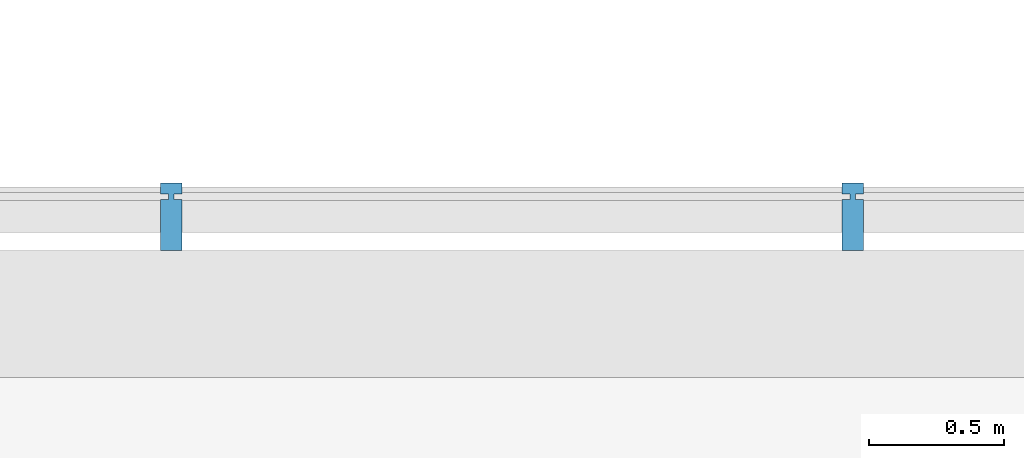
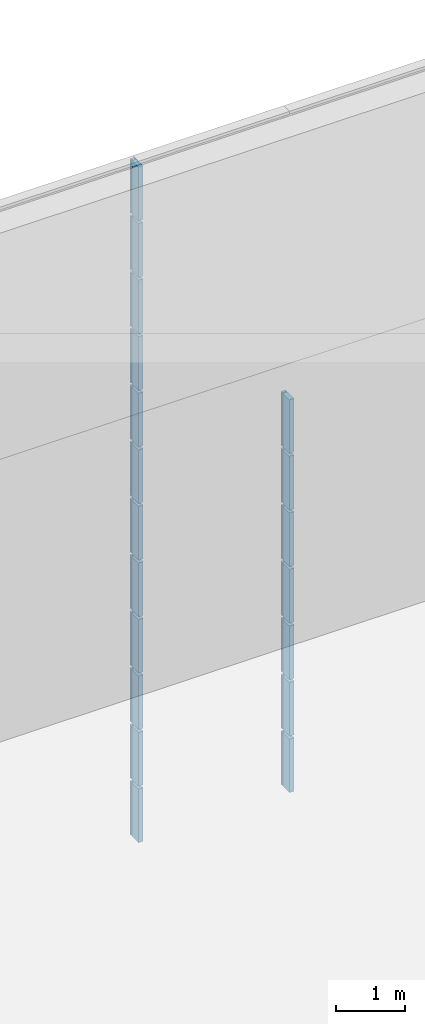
# One storey, part 97 of 105: 19 building element parts, 4 elements without a shape of their own.
"""IFC4 building model written with IfcOpenShell, lengths in millimetres."""

from ifc_helpers import new_model, entity, si_unit, converted_unit, derived_unit, direction, frame, origin_with_axes, place, context, subcontext, project, spatial, triangles, material, element, aggregate, save


model = new_model("IFC4")

# Units and contexts
model_context = context("Model", 3, precision=1e-05, world=origin_with_axes(), true_north=direction((0.0, 1.0)))
body_context = subcontext(model_context, "Body", "Model", "MODEL_VIEW")
ifc_project = project(units=[si_unit("LENGTHUNIT", "METRE", prefix="MILLI"), si_unit("AREAUNIT", "SQUARE_METRE"), si_unit("VOLUMEUNIT", "CUBIC_METRE"), converted_unit("PLANEANGLEUNIT", "DEGREE", entity("IfcLengthMeasure", 0.017453), si_unit("PLANEANGLEUNIT", "RADIAN"), dimensions=[0, 0, 0, 0, 0, 0, 0]), si_unit("SOLIDANGLEUNIT", "STERADIAN"), si_unit("MASSUNIT", "GRAM"), si_unit("TIMEUNIT", "SECOND"), si_unit("THERMODYNAMICTEMPERATUREUNIT", "DEGREE_CELSIUS"), si_unit("LUMINOUSINTENSITYUNIT", "LUMEN"), si_unit("POWERUNIT", "WATT"), derived_unit("THERMALTRANSMITTANCEUNIT", [(si_unit("POWERUNIT", "WATT"), 1), (si_unit("THERMODYNAMICTEMPERATUREUNIT", "KELVIN"), -1), (si_unit("AREAUNIT", "SQUARE_METRE"), -1)])], contexts=[model_context])

# Site, building, storey
site_placement = place(None, origin_with_axes())
site = spatial("IfcSite", under=ifc_project, at=site_placement, Name="Default Site", CompositionType="ELEMENT")
building_placement = place(site_placement, origin_with_axes())
building = spatial("IfcBuilding", under=site, at=building_placement, Name="Default Building", CompositionType="ELEMENT")
storey_placement = place(building_placement, origin_with_axes())
storey = spatial("IfcBuildingStorey", under=building, at=storey_placement, Name="OG - Story", CompositionType="ELEMENT", Elevation=0.0)

# Curtain wall, building element parts
curtain_wall_1_placement = place(storey_placement, origin_with_axes())
curtain_wall_1 = element("IfcCurtainWall", 1, at=curtain_wall_1_placement, inside=storey, Name="Fassade-004", PredefinedType="NOTDEFINED")
ifc_material = material(Name="Blech")
building_element_part_1_placement = place(curtain_wall_1_placement, frame((33014.549222, -4389.262838, 0.0), z_axis=(0.0, 0.0, 1.0), x_axis=(1.0, 0.0, 0.0)))
building_element_part_1 = element("IfcBuildingElementPart", 2, at=building_element_part_1_placement, material=ifc_material, Name="Blech", PredefinedType="NOTDEFINED", context=body_context, shape_type="Tessellation", body=[
    triangles([(31618.947, -9.999, 975.0), (31618.947, -199.999, 975.0), (31588.947, -9.999, 975.0), (31568.947, -9.999, 975.0), (31588.947, 10.0, 975.0), (31618.947, 50.0, 975.0), (31618.947, 10.0, 975.0), (31538.947, -199.999, 975.0), (31538.947, -9.999, 975.0), (31568.947, 10.0, 975.0), (31538.947, 10.0, 975.0), (31538.947, 50.0, 975.0), (31588.947, -9.999, 25.0), (31588.947, 10.0, 25.0), (31618.947, 10.0, 25.0), (31618.947, 50.0, 25.0), (31538.947, 50.0, 25.0), (31538.947, 10.0, 25.0), (31568.947, 10.0, 25.0), (31568.947, -9.999, 25.0), (31538.947, -9.999, 25.0), (31538.947, -199.999, 25.0), (31618.947, -199.999, 25.0), (31618.947, -9.999, 25.0)], [[1, 2, 3], [3, 2, 4], [3, 4, 5], [5, 4, 6], [5, 6, 7], [8, 9, 4], [8, 4, 2], [6, 4, 10], [6, 10, 11], [6, 11, 12], [3, 13, 14], [3, 14, 5], [5, 14, 15], [5, 15, 7], [15, 16, 6], [15, 6, 7], [12, 6, 16], [12, 16, 17], [18, 11, 12], [18, 12, 17], [11, 18, 19], [11, 19, 10], [4, 10, 19], [4, 19, 20], [9, 4, 20], [9, 20, 21], [9, 21, 22], [9, 22, 8], [2, 8, 22], [2, 22, 23], [1, 2, 23], [1, 23, 24], [1, 24, 13], [1, 13, 3], [15, 16, 14], [14, 16, 19], [14, 19, 13], [13, 19, 23], [13, 23, 24], [17, 18, 19], [17, 19, 16], [23, 19, 20], [23, 20, 21], [23, 21, 22]], closed=False),
])
building_element_part_2_placement = place(curtain_wall_1_placement, frame((33014.549222, -4389.262838, 0.0), z_axis=(0.0, 0.0, 1.0), x_axis=(1.0, 0.0, 0.0)))
building_element_part_2 = element("IfcBuildingElementPart", 3, at=building_element_part_2_placement, material=ifc_material, Name="Blech", PredefinedType="NOTDEFINED", context=body_context, shape_type="Tessellation", body=[
    triangles([(34145.263, -9.999, 975.0), (34145.263, -199.999, 975.0), (34115.263, -9.999, 975.0), (34095.263, -9.999, 975.0), (34115.263, 10.0, 975.0), (34145.263, 50.0, 975.0), (34145.263, 10.0, 975.0), (34065.263, -199.999, 975.0), (34065.263, -9.999, 975.0), (34095.263, 10.0, 975.0), (34065.263, 10.0, 975.0), (34065.263, 50.0, 975.0), (34115.263, -9.999, 25.0), (34115.263, 10.0, 25.0), (34145.263, 10.0, 25.0), (34145.263, 50.0, 25.0), (34065.263, 50.0, 25.0), (34065.263, 10.0, 25.0), (34095.263, 10.0, 25.0), (34095.263, -9.999, 25.0), (34065.263, -9.999, 25.0), (34065.263, -199.999, 25.0), (34145.263, -199.999, 25.0), (34145.263, -9.999, 25.0)], [[1, 2, 3], [3, 2, 4], [3, 4, 5], [5, 4, 6], [5, 6, 7], [8, 9, 4], [8, 4, 2], [6, 4, 10], [6, 10, 11], [6, 11, 12], [3, 13, 14], [3, 14, 5], [5, 14, 15], [5, 15, 7], [15, 16, 6], [15, 6, 7], [12, 6, 16], [12, 16, 17], [18, 11, 12], [18, 12, 17], [11, 18, 19], [11, 19, 10], [4, 10, 19], [4, 19, 20], [9, 4, 20], [9, 20, 21], [9, 21, 22], [9, 22, 8], [2, 8, 22], [2, 22, 23], [1, 2, 23], [1, 23, 24], [1, 24, 13], [1, 13, 3], [15, 16, 14], [14, 16, 19], [14, 19, 13], [13, 19, 23], [13, 23, 24], [17, 18, 19], [17, 19, 16], [23, 19, 20], [23, 20, 21], [23, 21, 22]], closed=False),
])
building_element_part_3_placement = place(curtain_wall_1_placement, frame((33014.549222, -4389.262838, 0.0), z_axis=(0.0, 0.0, 1.0), x_axis=(1.0, 0.0, 0.0)))
building_element_part_3 = element("IfcBuildingElementPart", 4, at=building_element_part_3_placement, material=ifc_material, Name="Blech", PredefinedType="NOTDEFINED", context=body_context, shape_type="Tessellation", body=[
    triangles([(31618.947, -9.999, 1975.0), (31618.947, -199.999, 1975.0), (31588.947, -9.999, 1975.0), (31568.947, -9.999, 1975.0), (31588.947, 10.0, 1975.0), (31618.947, 50.0, 1975.0), (31618.947, 10.0, 1975.0), (31538.947, -199.999, 1975.0), (31538.947, -9.999, 1975.0), (31568.947, 10.0, 1975.0), (31538.947, 10.0, 1975.0), (31538.947, 50.0, 1975.0), (31588.947, -9.999, 1025.0), (31588.947, 10.0, 1025.0), (31618.947, 10.0, 1025.0), (31618.947, 50.0, 1025.0), (31538.947, 50.0, 1025.0), (31538.947, 10.0, 1025.0), (31568.947, 10.0, 1025.0), (31568.947, -9.999, 1025.0), (31538.947, -9.999, 1025.0), (31538.947, -199.999, 1025.0), (31618.947, -199.999, 1025.0), (31618.947, -9.999, 1025.0)], [[1, 2, 3], [3, 2, 4], [3, 4, 5], [5, 4, 6], [5, 6, 7], [8, 9, 4], [8, 4, 2], [6, 4, 10], [6, 10, 11], [6, 11, 12], [3, 13, 14], [3, 14, 5], [5, 14, 15], [5, 15, 7], [15, 16, 6], [15, 6, 7], [12, 6, 16], [12, 16, 17], [18, 11, 12], [18, 12, 17], [11, 18, 19], [11, 19, 10], [4, 10, 19], [4, 19, 20], [9, 4, 20], [9, 20, 21], [9, 21, 22], [9, 22, 8], [2, 8, 22], [2, 22, 23], [1, 2, 23], [1, 23, 24], [1, 24, 13], [1, 13, 3], [15, 16, 14], [14, 16, 19], [14, 19, 13], [13, 19, 23], [13, 23, 24], [17, 18, 19], [17, 19, 16], [23, 19, 20], [23, 20, 21], [23, 21, 22]], closed=False),
])
building_element_part_4_placement = place(curtain_wall_1_placement, frame((33014.549222, -4389.262838, 0.0), z_axis=(0.0, 0.0, 1.0), x_axis=(1.0, 0.0, 0.0)))
building_element_part_4 = element("IfcBuildingElementPart", 5, at=building_element_part_4_placement, material=ifc_material, Name="Blech", PredefinedType="NOTDEFINED", context=body_context, shape_type="Tessellation", body=[
    triangles([(34145.263, -9.999, 1975.0), (34145.263, -199.999, 1975.0), (34115.263, -9.999, 1975.0), (34095.263, -9.999, 1975.0), (34115.263, 10.0, 1975.0), (34145.263, 50.0, 1975.0), (34145.263, 10.0, 1975.0), (34065.263, -199.999, 1975.0), (34065.263, -9.999, 1975.0), (34095.263, 10.0, 1975.0), (34065.263, 10.0, 1975.0), (34065.263, 50.0, 1975.0), (34115.263, -9.999, 1025.0), (34115.263, 10.0, 1025.0), (34145.263, 10.0, 1025.0), (34145.263, 50.0, 1025.0), (34065.263, 50.0, 1025.0), (34065.263, 10.0, 1025.0), (34095.263, 10.0, 1025.0), (34095.263, -9.999, 1025.0), (34065.263, -9.999, 1025.0), (34065.263, -199.999, 1025.0), (34145.263, -199.999, 1025.0), (34145.263, -9.999, 1025.0)], [[1, 2, 3], [3, 2, 4], [3, 4, 5], [5, 4, 6], [5, 6, 7], [8, 9, 4], [8, 4, 2], [6, 4, 10], [6, 10, 11], [6, 11, 12], [3, 13, 14], [3, 14, 5], [5, 14, 15], [5, 15, 7], [15, 16, 6], [15, 6, 7], [12, 6, 16], [12, 16, 17], [18, 11, 12], [18, 12, 17], [11, 18, 19], [11, 19, 10], [4, 10, 19], [4, 19, 20], [9, 4, 20], [9, 20, 21], [9, 21, 22], [9, 22, 8], [2, 8, 22], [2, 22, 23], [1, 2, 23], [1, 23, 24], [1, 24, 13], [1, 13, 3], [15, 16, 14], [14, 16, 19], [14, 19, 13], [13, 19, 23], [13, 23, 24], [17, 18, 19], [17, 19, 16], [23, 19, 20], [23, 20, 21], [23, 21, 22]], closed=False),
])
building_element_part_5_placement = place(curtain_wall_1_placement, frame((33014.549222, -4389.262838, 0.0), z_axis=(0.0, 0.0, 1.0), x_axis=(1.0, 0.0, 0.0)))
building_element_part_5 = element("IfcBuildingElementPart", 6, at=building_element_part_5_placement, material=ifc_material, Name="Blech", PredefinedType="NOTDEFINED", context=body_context, shape_type="Tessellation", body=[
    triangles([(31618.947, -9.999, 2975.0), (31618.947, -199.999, 2975.0), (31588.947, -9.999, 2975.0), (31568.947, -9.999, 2975.0), (31588.947, 10.0, 2975.0), (31618.947, 50.0, 2975.0), (31618.947, 10.0, 2975.0), (31538.947, -199.999, 2975.0), (31538.947, -9.999, 2975.0), (31568.947, 10.0, 2975.0), (31538.947, 10.0, 2975.0), (31538.947, 50.0, 2975.0), (31588.947, -9.999, 2025.0), (31588.947, 10.0, 2025.0), (31618.947, 10.0, 2025.0), (31618.947, 50.0, 2025.0), (31538.947, 50.0, 2025.0), (31538.947, 10.0, 2025.0), (31568.947, 10.0, 2025.0), (31568.947, -9.999, 2025.0), (31538.947, -9.999, 2025.0), (31538.947, -199.999, 2025.0), (31618.947, -199.999, 2025.0), (31618.947, -9.999, 2025.0)], [[1, 2, 3], [3, 2, 4], [3, 4, 5], [5, 4, 6], [5, 6, 7], [8, 9, 4], [8, 4, 2], [6, 4, 10], [6, 10, 11], [6, 11, 12], [3, 13, 14], [3, 14, 5], [5, 14, 15], [5, 15, 7], [15, 16, 6], [15, 6, 7], [12, 6, 16], [12, 16, 17], [18, 11, 12], [18, 12, 17], [11, 18, 19], [11, 19, 10], [4, 10, 19], [4, 19, 20], [9, 4, 20], [9, 20, 21], [9, 21, 22], [9, 22, 8], [2, 8, 22], [2, 22, 23], [1, 2, 23], [1, 23, 24], [1, 24, 13], [1, 13, 3], [15, 16, 14], [14, 16, 19], [14, 19, 13], [13, 19, 23], [13, 23, 24], [17, 18, 19], [17, 19, 16], [23, 19, 20], [23, 20, 21], [23, 21, 22]], closed=False),
])
building_element_part_6_placement = place(curtain_wall_1_placement, frame((33014.549222, -4389.262838, 0.0), z_axis=(0.0, 0.0, 1.0), x_axis=(1.0, 0.0, 0.0)))
building_element_part_6 = element("IfcBuildingElementPart", 7, at=building_element_part_6_placement, material=ifc_material, Name="Blech", PredefinedType="NOTDEFINED", context=body_context, shape_type="Tessellation", body=[
    triangles([(34145.263, -9.999, 2975.0), (34145.263, -199.999, 2975.0), (34115.263, -9.999, 2975.0), (34095.263, -9.999, 2975.0), (34115.263, 10.0, 2975.0), (34145.263, 50.0, 2975.0), (34145.263, 10.0, 2975.0), (34065.263, -199.999, 2975.0), (34065.263, -9.999, 2975.0), (34095.263, 10.0, 2975.0), (34065.263, 10.0, 2975.0), (34065.263, 50.0, 2975.0), (34115.263, -9.999, 2025.0), (34115.263, 10.0, 2025.0), (34145.263, 10.0, 2025.0), (34145.263, 50.0, 2025.0), (34065.263, 50.0, 2025.0), (34065.263, 10.0, 2025.0), (34095.263, 10.0, 2025.0), (34095.263, -9.999, 2025.0), (34065.263, -9.999, 2025.0), (34065.263, -199.999, 2025.0), (34145.263, -199.999, 2025.0), (34145.263, -9.999, 2025.0)], [[1, 2, 3], [3, 2, 4], [3, 4, 5], [5, 4, 6], [5, 6, 7], [8, 9, 4], [8, 4, 2], [6, 4, 10], [6, 10, 11], [6, 11, 12], [3, 13, 14], [3, 14, 5], [5, 14, 15], [5, 15, 7], [15, 16, 6], [15, 6, 7], [12, 6, 16], [12, 16, 17], [18, 11, 12], [18, 12, 17], [11, 18, 19], [11, 19, 10], [4, 10, 19], [4, 19, 20], [9, 4, 20], [9, 20, 21], [9, 21, 22], [9, 22, 8], [2, 8, 22], [2, 22, 23], [1, 2, 23], [1, 23, 24], [1, 24, 13], [1, 13, 3], [15, 16, 14], [14, 16, 19], [14, 19, 13], [13, 19, 23], [13, 23, 24], [17, 18, 19], [17, 19, 16], [23, 19, 20], [23, 20, 21], [23, 21, 22]], closed=False),
])
aggregate(curtain_wall_1, [building_element_part_1, building_element_part_2, building_element_part_3, building_element_part_4, building_element_part_5, building_element_part_6])

curtain_wall_2_placement = place(storey_placement, origin_with_axes())
curtain_wall_2 = element("IfcCurtainWall", 8, at=curtain_wall_2_placement, inside=storey, Name="Fassade-004", PredefinedType="NOTDEFINED")
building_element_part_7_placement = place(curtain_wall_2_placement, frame((33014.549222, -4389.262838, 3000.0), z_axis=(0.0, 0.0, 1.0), x_axis=(1.0, 0.0, 0.0)))
building_element_part_7 = element("IfcBuildingElementPart", 9, at=building_element_part_7_placement, material=ifc_material, Name="Blech", PredefinedType="NOTDEFINED", context=body_context, shape_type="Tessellation", body=[
    triangles([(31618.947, -9.999, 975.0), (31618.947, -199.999, 975.0), (31588.947, -9.999, 975.0), (31568.947, -9.999, 975.0), (31588.947, 10.0, 975.0), (31618.947, 50.0, 975.0), (31618.947, 10.0, 975.0), (31538.947, -199.999, 975.0), (31538.947, -9.999, 975.0), (31568.947, 10.0, 975.0), (31538.947, 10.0, 975.0), (31538.947, 50.0, 975.0), (31588.947, -9.999, 25.0), (31588.947, 10.0, 25.0), (31618.947, 10.0, 25.0), (31618.947, 50.0, 25.0), (31538.947, 50.0, 25.0), (31538.947, 10.0, 25.0), (31568.947, 10.0, 25.0), (31568.947, -9.999, 25.0), (31538.947, -9.999, 25.0), (31538.947, -199.999, 25.0), (31618.947, -199.999, 25.0), (31618.947, -9.999, 25.0)], [[1, 2, 3], [3, 2, 4], [3, 4, 5], [5, 4, 6], [5, 6, 7], [8, 9, 4], [8, 4, 2], [6, 4, 10], [6, 10, 11], [6, 11, 12], [3, 13, 14], [3, 14, 5], [5, 14, 15], [5, 15, 7], [15, 16, 6], [15, 6, 7], [12, 6, 16], [12, 16, 17], [18, 11, 12], [18, 12, 17], [11, 18, 19], [11, 19, 10], [4, 10, 19], [4, 19, 20], [9, 4, 20], [9, 20, 21], [9, 21, 22], [9, 22, 8], [2, 8, 22], [2, 22, 23], [1, 2, 23], [1, 23, 24], [1, 24, 13], [1, 13, 3], [15, 16, 14], [14, 16, 19], [14, 19, 13], [13, 19, 23], [13, 23, 24], [17, 18, 19], [17, 19, 16], [23, 19, 20], [23, 20, 21], [23, 21, 22]], closed=False),
])
building_element_part_8_placement = place(curtain_wall_2_placement, frame((33014.549222, -4389.262838, 3000.0), z_axis=(0.0, 0.0, 1.0), x_axis=(1.0, 0.0, 0.0)))
building_element_part_8 = element("IfcBuildingElementPart", 10, at=building_element_part_8_placement, material=ifc_material, Name="Blech", PredefinedType="NOTDEFINED", context=body_context, shape_type="Tessellation", body=[
    triangles([(34145.263, -9.999, 975.0), (34145.263, -199.999, 975.0), (34115.263, -9.999, 975.0), (34095.263, -9.999, 975.0), (34115.263, 10.0, 975.0), (34145.263, 50.0, 975.0), (34145.263, 10.0, 975.0), (34065.263, -199.999, 975.0), (34065.263, -9.999, 975.0), (34095.263, 10.0, 975.0), (34065.263, 10.0, 975.0), (34065.263, 50.0, 975.0), (34115.263, -9.999, 25.0), (34115.263, 10.0, 25.0), (34145.263, 10.0, 25.0), (34145.263, 50.0, 25.0), (34065.263, 50.0, 25.0), (34065.263, 10.0, 25.0), (34095.263, 10.0, 25.0), (34095.263, -9.999, 25.0), (34065.263, -9.999, 25.0), (34065.263, -199.999, 25.0), (34145.263, -199.999, 25.0), (34145.263, -9.999, 25.0)], [[1, 2, 3], [3, 2, 4], [3, 4, 5], [5, 4, 6], [5, 6, 7], [8, 9, 4], [8, 4, 2], [6, 4, 10], [6, 10, 11], [6, 11, 12], [3, 13, 14], [3, 14, 5], [5, 14, 15], [5, 15, 7], [15, 16, 6], [15, 6, 7], [12, 6, 16], [12, 16, 17], [18, 11, 12], [18, 12, 17], [11, 18, 19], [11, 19, 10], [4, 10, 19], [4, 19, 20], [9, 4, 20], [9, 20, 21], [9, 21, 22], [9, 22, 8], [2, 8, 22], [2, 22, 23], [1, 2, 23], [1, 23, 24], [1, 24, 13], [1, 13, 3], [15, 16, 14], [14, 16, 19], [14, 19, 13], [13, 19, 23], [13, 23, 24], [17, 18, 19], [17, 19, 16], [23, 19, 20], [23, 20, 21], [23, 21, 22]], closed=False),
])
building_element_part_9_placement = place(curtain_wall_2_placement, frame((33014.549222, -4389.262838, 3000.0), z_axis=(0.0, 0.0, 1.0), x_axis=(1.0, 0.0, 0.0)))
building_element_part_9 = element("IfcBuildingElementPart", 11, at=building_element_part_9_placement, material=ifc_material, Name="Blech", PredefinedType="NOTDEFINED", context=body_context, shape_type="Tessellation", body=[
    triangles([(31618.947, -9.999, 1975.0), (31618.947, -199.999, 1975.0), (31588.947, -9.999, 1975.0), (31568.947, -9.999, 1975.0), (31588.947, 10.0, 1975.0), (31618.947, 50.0, 1975.0), (31618.947, 10.0, 1975.0), (31538.947, -199.999, 1975.0), (31538.947, -9.999, 1975.0), (31568.947, 10.0, 1975.0), (31538.947, 10.0, 1975.0), (31538.947, 50.0, 1975.0), (31588.947, -9.999, 1025.0), (31588.947, 10.0, 1025.0), (31618.947, 10.0, 1025.0), (31618.947, 50.0, 1025.0), (31538.947, 50.0, 1025.0), (31538.947, 10.0, 1025.0), (31568.947, 10.0, 1025.0), (31568.947, -9.999, 1025.0), (31538.947, -9.999, 1025.0), (31538.947, -199.999, 1025.0), (31618.947, -199.999, 1025.0), (31618.947, -9.999, 1025.0)], [[1, 2, 3], [3, 2, 4], [3, 4, 5], [5, 4, 6], [5, 6, 7], [8, 9, 4], [8, 4, 2], [6, 4, 10], [6, 10, 11], [6, 11, 12], [3, 13, 14], [3, 14, 5], [5, 14, 15], [5, 15, 7], [15, 16, 6], [15, 6, 7], [12, 6, 16], [12, 16, 17], [18, 11, 12], [18, 12, 17], [11, 18, 19], [11, 19, 10], [4, 10, 19], [4, 19, 20], [9, 4, 20], [9, 20, 21], [9, 21, 22], [9, 22, 8], [2, 8, 22], [2, 22, 23], [1, 2, 23], [1, 23, 24], [1, 24, 13], [1, 13, 3], [15, 16, 14], [14, 16, 19], [14, 19, 13], [13, 19, 23], [13, 23, 24], [17, 18, 19], [17, 19, 16], [23, 19, 20], [23, 20, 21], [23, 21, 22]], closed=False),
])
building_element_part_10_placement = place(curtain_wall_2_placement, frame((33014.549222, -4389.262838, 3000.0), z_axis=(0.0, 0.0, 1.0), x_axis=(1.0, 0.0, 0.0)))
building_element_part_10 = element("IfcBuildingElementPart", 12, at=building_element_part_10_placement, material=ifc_material, Name="Blech", PredefinedType="NOTDEFINED", context=body_context, shape_type="Tessellation", body=[
    triangles([(34145.263, -9.999, 1975.0), (34145.263, -199.999, 1975.0), (34115.263, -9.999, 1975.0), (34095.263, -9.999, 1975.0), (34115.263, 10.0, 1975.0), (34145.263, 50.0, 1975.0), (34145.263, 10.0, 1975.0), (34065.263, -199.999, 1975.0), (34065.263, -9.999, 1975.0), (34095.263, 10.0, 1975.0), (34065.263, 10.0, 1975.0), (34065.263, 50.0, 1975.0), (34115.263, -9.999, 1025.0), (34115.263, 10.0, 1025.0), (34145.263, 10.0, 1025.0), (34145.263, 50.0, 1025.0), (34065.263, 50.0, 1025.0), (34065.263, 10.0, 1025.0), (34095.263, 10.0, 1025.0), (34095.263, -9.999, 1025.0), (34065.263, -9.999, 1025.0), (34065.263, -199.999, 1025.0), (34145.263, -199.999, 1025.0), (34145.263, -9.999, 1025.0)], [[1, 2, 3], [3, 2, 4], [3, 4, 5], [5, 4, 6], [5, 6, 7], [8, 9, 4], [8, 4, 2], [6, 4, 10], [6, 10, 11], [6, 11, 12], [3, 13, 14], [3, 14, 5], [5, 14, 15], [5, 15, 7], [15, 16, 6], [15, 6, 7], [12, 6, 16], [12, 16, 17], [18, 11, 12], [18, 12, 17], [11, 18, 19], [11, 19, 10], [4, 10, 19], [4, 19, 20], [9, 4, 20], [9, 20, 21], [9, 21, 22], [9, 22, 8], [2, 8, 22], [2, 22, 23], [1, 2, 23], [1, 23, 24], [1, 24, 13], [1, 13, 3], [15, 16, 14], [14, 16, 19], [14, 19, 13], [13, 19, 23], [13, 23, 24], [17, 18, 19], [17, 19, 16], [23, 19, 20], [23, 20, 21], [23, 21, 22]], closed=False),
])
building_element_part_11_placement = place(curtain_wall_2_placement, frame((33014.549222, -4389.262838, 3000.0), z_axis=(0.0, 0.0, 1.0), x_axis=(1.0, 0.0, 0.0)))
building_element_part_11 = element("IfcBuildingElementPart", 13, at=building_element_part_11_placement, material=ifc_material, Name="Blech", PredefinedType="NOTDEFINED", context=body_context, shape_type="Tessellation", body=[
    triangles([(31618.947, -9.999, 2975.0), (31618.947, -199.999, 2975.0), (31588.947, -9.999, 2975.0), (31568.947, -9.999, 2975.0), (31588.947, 10.0, 2975.0), (31618.947, 50.0, 2975.0), (31618.947, 10.0, 2975.0), (31538.947, -199.999, 2975.0), (31538.947, -9.999, 2975.0), (31568.947, 10.0, 2975.0), (31538.947, 10.0, 2975.0), (31538.947, 50.0, 2975.0), (31588.947, -9.999, 2025.0), (31588.947, 10.0, 2025.0), (31618.947, 10.0, 2025.0), (31618.947, 50.0, 2025.0), (31538.947, 50.0, 2025.0), (31538.947, 10.0, 2025.0), (31568.947, 10.0, 2025.0), (31568.947, -9.999, 2025.0), (31538.947, -9.999, 2025.0), (31538.947, -199.999, 2025.0), (31618.947, -199.999, 2025.0), (31618.947, -9.999, 2025.0)], [[1, 2, 3], [3, 2, 4], [3, 4, 5], [5, 4, 6], [5, 6, 7], [8, 9, 4], [8, 4, 2], [6, 4, 10], [6, 10, 11], [6, 11, 12], [3, 13, 14], [3, 14, 5], [5, 14, 15], [5, 15, 7], [15, 16, 6], [15, 6, 7], [12, 6, 16], [12, 16, 17], [18, 11, 12], [18, 12, 17], [11, 18, 19], [11, 19, 10], [4, 10, 19], [4, 19, 20], [9, 4, 20], [9, 20, 21], [9, 21, 22], [9, 22, 8], [2, 8, 22], [2, 22, 23], [1, 2, 23], [1, 23, 24], [1, 24, 13], [1, 13, 3], [15, 16, 14], [14, 16, 19], [14, 19, 13], [13, 19, 23], [13, 23, 24], [17, 18, 19], [17, 19, 16], [23, 19, 20], [23, 20, 21], [23, 21, 22]], closed=False),
])
building_element_part_12_placement = place(curtain_wall_2_placement, frame((33014.549222, -4389.262838, 3000.0), z_axis=(0.0, 0.0, 1.0), x_axis=(1.0, 0.0, 0.0)))
building_element_part_12 = element("IfcBuildingElementPart", 14, at=building_element_part_12_placement, material=ifc_material, Name="Blech", PredefinedType="NOTDEFINED", context=body_context, shape_type="Tessellation", body=[
    triangles([(34145.263, -9.999, 2975.0), (34145.263, -199.999, 2975.0), (34115.263, -9.999, 2975.0), (34095.263, -9.999, 2975.0), (34115.263, 10.0, 2975.0), (34145.263, 50.0, 2975.0), (34145.263, 10.0, 2975.0), (34065.263, -199.999, 2975.0), (34065.263, -9.999, 2975.0), (34095.263, 10.0, 2975.0), (34065.263, 10.0, 2975.0), (34065.263, 50.0, 2975.0), (34115.263, -9.999, 2025.0), (34115.263, 10.0, 2025.0), (34145.263, 10.0, 2025.0), (34145.263, 50.0, 2025.0), (34065.263, 50.0, 2025.0), (34065.263, 10.0, 2025.0), (34095.263, 10.0, 2025.0), (34095.263, -9.999, 2025.0), (34065.263, -9.999, 2025.0), (34065.263, -199.999, 2025.0), (34145.263, -199.999, 2025.0), (34145.263, -9.999, 2025.0)], [[1, 2, 3], [3, 2, 4], [3, 4, 5], [5, 4, 6], [5, 6, 7], [8, 9, 4], [8, 4, 2], [6, 4, 10], [6, 10, 11], [6, 11, 12], [3, 13, 14], [3, 14, 5], [5, 14, 15], [5, 15, 7], [15, 16, 6], [15, 6, 7], [12, 6, 16], [12, 16, 17], [18, 11, 12], [18, 12, 17], [11, 18, 19], [11, 19, 10], [4, 10, 19], [4, 19, 20], [9, 4, 20], [9, 20, 21], [9, 21, 22], [9, 22, 8], [2, 8, 22], [2, 22, 23], [1, 2, 23], [1, 23, 24], [1, 24, 13], [1, 13, 3], [15, 16, 14], [14, 16, 19], [14, 19, 13], [13, 19, 23], [13, 23, 24], [17, 18, 19], [17, 19, 16], [23, 19, 20], [23, 20, 21], [23, 21, 22]], closed=False),
])
aggregate(curtain_wall_2, [building_element_part_7, building_element_part_8, building_element_part_9, building_element_part_10, building_element_part_11, building_element_part_12])

curtain_wall_3_placement = place(storey_placement, origin_with_axes())
curtain_wall_3 = element("IfcCurtainWall", 15, at=curtain_wall_3_placement, inside=storey, Name="Fassade-004", PredefinedType="NOTDEFINED")
building_element_part_13_placement = place(curtain_wall_3_placement, frame((33014.549222, -4389.262838, 6000.0), z_axis=(0.0, 0.0, 1.0), x_axis=(1.0, 0.0, 0.0)))
building_element_part_13 = element("IfcBuildingElementPart", 16, at=building_element_part_13_placement, material=ifc_material, Name="Blech", PredefinedType="NOTDEFINED", context=body_context, shape_type="Tessellation", body=[
    triangles([(31618.947, -9.999, 975.0), (31618.947, -199.999, 975.0), (31588.947, -9.999, 975.0), (31568.947, -9.999, 975.0), (31588.947, 10.0, 975.0), (31618.947, 50.0, 975.0), (31618.947, 10.0, 975.0), (31538.947, -199.999, 975.0), (31538.947, -9.999, 975.0), (31568.947, 10.0, 975.0), (31538.947, 10.0, 975.0), (31538.947, 50.0, 975.0), (31588.947, -9.999, 25.0), (31588.947, 10.0, 25.0), (31618.947, 10.0, 25.0), (31618.947, 50.0, 25.0), (31538.947, 50.0, 25.0), (31538.947, 10.0, 25.0), (31568.947, 10.0, 25.0), (31568.947, -9.999, 25.0), (31538.947, -9.999, 25.0), (31538.947, -199.999, 25.0), (31618.947, -199.999, 25.0), (31618.947, -9.999, 25.0)], [[1, 2, 3], [3, 2, 4], [3, 4, 5], [5, 4, 6], [5, 6, 7], [8, 9, 4], [8, 4, 2], [6, 4, 10], [6, 10, 11], [6, 11, 12], [3, 13, 14], [3, 14, 5], [5, 14, 15], [5, 15, 7], [15, 16, 6], [15, 6, 7], [12, 6, 16], [12, 16, 17], [18, 11, 12], [18, 12, 17], [11, 18, 19], [11, 19, 10], [4, 10, 19], [4, 19, 20], [9, 4, 20], [9, 20, 21], [9, 21, 22], [9, 22, 8], [2, 8, 22], [2, 22, 23], [1, 2, 23], [1, 23, 24], [1, 24, 13], [1, 13, 3], [15, 16, 14], [14, 16, 19], [14, 19, 13], [13, 19, 23], [13, 23, 24], [17, 18, 19], [17, 19, 16], [23, 19, 20], [23, 20, 21], [23, 21, 22]], closed=False),
])
building_element_part_14_placement = place(curtain_wall_3_placement, frame((33014.549222, -4389.262838, 6000.0), z_axis=(0.0, 0.0, 1.0), x_axis=(1.0, 0.0, 0.0)))
building_element_part_14 = element("IfcBuildingElementPart", 17, at=building_element_part_14_placement, material=ifc_material, Name="Blech", PredefinedType="NOTDEFINED", context=body_context, shape_type="Tessellation", body=[
    triangles([(34145.263, -9.999, 975.0), (34145.263, -199.999, 975.0), (34115.263, -9.999, 975.0), (34095.263, -9.999, 975.0), (34115.263, 10.0, 975.0), (34145.263, 50.0, 975.0), (34145.263, 10.0, 975.0), (34065.263, -199.999, 975.0), (34065.263, -9.999, 975.0), (34095.263, 10.0, 975.0), (34065.263, 10.0, 975.0), (34065.263, 50.0, 975.0), (34115.263, -9.999, 25.0), (34115.263, 10.0, 25.0), (34145.263, 10.0, 25.0), (34145.263, 50.0, 25.0), (34065.263, 50.0, 25.0), (34065.263, 10.0, 25.0), (34095.263, 10.0, 25.0), (34095.263, -9.999, 25.0), (34065.263, -9.999, 25.0), (34065.263, -199.999, 25.0), (34145.263, -199.999, 25.0), (34145.263, -9.999, 25.0)], [[1, 2, 3], [3, 2, 4], [3, 4, 5], [5, 4, 6], [5, 6, 7], [8, 9, 4], [8, 4, 2], [6, 4, 10], [6, 10, 11], [6, 11, 12], [3, 13, 14], [3, 14, 5], [5, 14, 15], [5, 15, 7], [15, 16, 6], [15, 6, 7], [12, 6, 16], [12, 16, 17], [18, 11, 12], [18, 12, 17], [11, 18, 19], [11, 19, 10], [4, 10, 19], [4, 19, 20], [9, 4, 20], [9, 20, 21], [9, 21, 22], [9, 22, 8], [2, 8, 22], [2, 22, 23], [1, 2, 23], [1, 23, 24], [1, 24, 13], [1, 13, 3], [15, 16, 14], [14, 16, 19], [14, 19, 13], [13, 19, 23], [13, 23, 24], [17, 18, 19], [17, 19, 16], [23, 19, 20], [23, 20, 21], [23, 21, 22]], closed=False),
])
building_element_part_15_placement = place(curtain_wall_3_placement, frame((33014.549222, -4389.262838, 6000.0), z_axis=(0.0, 0.0, 1.0), x_axis=(1.0, 0.0, 0.0)))
building_element_part_15 = element("IfcBuildingElementPart", 18, at=building_element_part_15_placement, material=ifc_material, Name="Blech", PredefinedType="NOTDEFINED", context=body_context, shape_type="Tessellation", body=[
    triangles([(31618.947, -9.999, 1975.0), (31618.947, -199.999, 1975.0), (31588.947, -9.999, 1975.0), (31568.947, -9.999, 1975.0), (31588.947, 10.0, 1975.0), (31618.947, 50.0, 1975.0), (31618.947, 10.0, 1975.0), (31538.947, -199.999, 1975.0), (31538.947, -9.999, 1975.0), (31568.947, 10.0, 1975.0), (31538.947, 10.0, 1975.0), (31538.947, 50.0, 1975.0), (31588.947, -9.999, 1025.0), (31588.947, 10.0, 1025.0), (31618.947, 10.0, 1025.0), (31618.947, 50.0, 1025.0), (31538.947, 50.0, 1025.0), (31538.947, 10.0, 1025.0), (31568.947, 10.0, 1025.0), (31568.947, -9.999, 1025.0), (31538.947, -9.999, 1025.0), (31538.947, -199.999, 1025.0), (31618.947, -199.999, 1025.0), (31618.947, -9.999, 1025.0)], [[1, 2, 3], [3, 2, 4], [3, 4, 5], [5, 4, 6], [5, 6, 7], [8, 9, 4], [8, 4, 2], [6, 4, 10], [6, 10, 11], [6, 11, 12], [3, 13, 14], [3, 14, 5], [5, 14, 15], [5, 15, 7], [15, 16, 6], [15, 6, 7], [12, 6, 16], [12, 16, 17], [18, 11, 12], [18, 12, 17], [11, 18, 19], [11, 19, 10], [4, 10, 19], [4, 19, 20], [9, 4, 20], [9, 20, 21], [9, 21, 22], [9, 22, 8], [2, 8, 22], [2, 22, 23], [1, 2, 23], [1, 23, 24], [1, 24, 13], [1, 13, 3], [15, 16, 14], [14, 16, 19], [14, 19, 13], [13, 19, 23], [13, 23, 24], [17, 18, 19], [17, 19, 16], [23, 19, 20], [23, 20, 21], [23, 21, 22]], closed=False),
])
building_element_part_16_placement = place(curtain_wall_3_placement, frame((33014.549222, -4389.262838, 6000.0), z_axis=(0.0, 0.0, 1.0), x_axis=(1.0, 0.0, 0.0)))
building_element_part_16 = element("IfcBuildingElementPart", 19, at=building_element_part_16_placement, material=ifc_material, Name="Blech", PredefinedType="NOTDEFINED", context=body_context, shape_type="Tessellation", body=[
    triangles([(31618.947, -9.999, 2975.0), (31618.947, -199.999, 2975.0), (31588.947, -9.999, 2975.0), (31568.947, -9.999, 2975.0), (31588.947, 10.0, 2975.0), (31618.947, 50.0, 2975.0), (31618.947, 10.0, 2975.0), (31538.947, -199.999, 2975.0), (31538.947, -9.999, 2975.0), (31568.947, 10.0, 2975.0), (31538.947, 10.0, 2975.0), (31538.947, 50.0, 2975.0), (31588.947, -9.999, 2025.0), (31588.947, 10.0, 2025.0), (31618.947, 10.0, 2025.0), (31618.947, 50.0, 2025.0), (31538.947, 50.0, 2025.0), (31538.947, 10.0, 2025.0), (31568.947, 10.0, 2025.0), (31568.947, -9.999, 2025.0), (31538.947, -9.999, 2025.0), (31538.947, -199.999, 2025.0), (31618.947, -199.999, 2025.0), (31618.947, -9.999, 2025.0)], [[1, 2, 3], [3, 2, 4], [3, 4, 5], [5, 4, 6], [5, 6, 7], [8, 9, 4], [8, 4, 2], [6, 4, 10], [6, 10, 11], [6, 11, 12], [3, 13, 14], [3, 14, 5], [5, 14, 15], [5, 15, 7], [15, 16, 6], [15, 6, 7], [12, 6, 16], [12, 16, 17], [18, 11, 12], [18, 12, 17], [11, 18, 19], [11, 19, 10], [4, 10, 19], [4, 19, 20], [9, 4, 20], [9, 20, 21], [9, 21, 22], [9, 22, 8], [2, 8, 22], [2, 22, 23], [1, 2, 23], [1, 23, 24], [1, 24, 13], [1, 13, 3], [15, 16, 14], [14, 16, 19], [14, 19, 13], [13, 19, 23], [13, 23, 24], [17, 18, 19], [17, 19, 16], [23, 19, 20], [23, 20, 21], [23, 21, 22]], closed=False),
])
aggregate(curtain_wall_3, [building_element_part_13, building_element_part_14, building_element_part_15, building_element_part_16])

curtain_wall_4_placement = place(storey_placement, origin_with_axes())
curtain_wall_4 = element("IfcCurtainWall", 20, at=curtain_wall_4_placement, inside=storey, Name="Fassade-004", PredefinedType="NOTDEFINED")
building_element_part_17_placement = place(curtain_wall_4_placement, frame((33014.549222, -4389.262838, 9000.0), z_axis=(0.0, 0.0, 1.0), x_axis=(1.0, 0.0, 0.0)))
building_element_part_17 = element("IfcBuildingElementPart", 21, at=building_element_part_17_placement, material=ifc_material, Name="Blech", PredefinedType="NOTDEFINED", context=body_context, shape_type="Tessellation", body=[
    triangles([(31618.947, -9.999, 975.0), (31618.947, -199.999, 975.0), (31588.947, -9.999, 975.0), (31568.947, -9.999, 975.0), (31588.947, 10.0, 975.0), (31618.947, 50.0, 975.0), (31618.947, 10.0, 975.0), (31538.947, -199.999, 975.0), (31538.947, -9.999, 975.0), (31568.947, 10.0, 975.0), (31538.947, 10.0, 975.0), (31538.947, 50.0, 975.0), (31588.947, -9.999, 25.0), (31588.947, 10.0, 25.0), (31618.947, 10.0, 25.0), (31618.947, 50.0, 25.0), (31538.947, 50.0, 25.0), (31538.947, 10.0, 25.0), (31568.947, 10.0, 25.0), (31568.947, -9.999, 25.0), (31538.947, -9.999, 25.0), (31538.947, -199.999, 25.0), (31618.947, -199.999, 25.0), (31618.947, -9.999, 25.0)], [[1, 2, 3], [3, 2, 4], [3, 4, 5], [5, 4, 6], [5, 6, 7], [8, 9, 4], [8, 4, 2], [6, 4, 10], [6, 10, 11], [6, 11, 12], [3, 13, 14], [3, 14, 5], [5, 14, 15], [5, 15, 7], [15, 16, 6], [15, 6, 7], [12, 6, 16], [12, 16, 17], [18, 11, 12], [18, 12, 17], [11, 18, 19], [11, 19, 10], [4, 10, 19], [4, 19, 20], [9, 4, 20], [9, 20, 21], [9, 21, 22], [9, 22, 8], [2, 8, 22], [2, 22, 23], [1, 2, 23], [1, 23, 24], [1, 24, 13], [1, 13, 3], [15, 16, 14], [14, 16, 19], [14, 19, 13], [13, 19, 23], [13, 23, 24], [17, 18, 19], [17, 19, 16], [23, 19, 20], [23, 20, 21], [23, 21, 22]], closed=False),
])
building_element_part_18_placement = place(curtain_wall_4_placement, frame((33014.549222, -4389.262838, 9000.0), z_axis=(0.0, 0.0, 1.0), x_axis=(1.0, 0.0, 0.0)))
building_element_part_18 = element("IfcBuildingElementPart", 22, at=building_element_part_18_placement, material=ifc_material, Name="Blech", PredefinedType="NOTDEFINED", context=body_context, shape_type="Tessellation", body=[
    triangles([(31618.947, -9.999, 1975.0), (31618.947, -199.999, 1975.0), (31588.947, -9.999, 1975.0), (31568.947, -9.999, 1975.0), (31588.947, 10.0, 1975.0), (31618.947, 50.0, 1975.0), (31618.947, 10.0, 1975.0), (31538.947, -199.999, 1975.0), (31538.947, -9.999, 1975.0), (31568.947, 10.0, 1975.0), (31538.947, 10.0, 1975.0), (31538.947, 50.0, 1975.0), (31588.947, -9.999, 1025.0), (31588.947, 10.0, 1025.0), (31618.947, 10.0, 1025.0), (31618.947, 50.0, 1025.0), (31538.947, 50.0, 1025.0), (31538.947, 10.0, 1025.0), (31568.947, 10.0, 1025.0), (31568.947, -9.999, 1025.0), (31538.947, -9.999, 1025.0), (31538.947, -199.999, 1025.0), (31618.947, -199.999, 1025.0), (31618.947, -9.999, 1025.0)], [[1, 2, 3], [3, 2, 4], [3, 4, 5], [5, 4, 6], [5, 6, 7], [8, 9, 4], [8, 4, 2], [6, 4, 10], [6, 10, 11], [6, 11, 12], [3, 13, 14], [3, 14, 5], [5, 14, 15], [5, 15, 7], [15, 16, 6], [15, 6, 7], [12, 6, 16], [12, 16, 17], [18, 11, 12], [18, 12, 17], [11, 18, 19], [11, 19, 10], [4, 10, 19], [4, 19, 20], [9, 4, 20], [9, 20, 21], [9, 21, 22], [9, 22, 8], [2, 8, 22], [2, 22, 23], [1, 2, 23], [1, 23, 24], [1, 24, 13], [1, 13, 3], [15, 16, 14], [14, 16, 19], [14, 19, 13], [13, 19, 23], [13, 23, 24], [17, 18, 19], [17, 19, 16], [23, 19, 20], [23, 20, 21], [23, 21, 22]], closed=False),
])
building_element_part_19_placement = place(curtain_wall_4_placement, frame((33014.549222, -4389.262838, 9000.0), z_axis=(0.0, 0.0, 1.0), x_axis=(1.0, 0.0, 0.0)))
building_element_part_19 = element("IfcBuildingElementPart", 23, at=building_element_part_19_placement, material=ifc_material, Name="Blech", PredefinedType="NOTDEFINED", context=body_context, shape_type="Tessellation", body=[
    triangles([(31618.947, -9.999, 2975.0), (31618.947, -199.999, 2975.0), (31588.947, -9.999, 2975.0), (31568.947, -9.999, 2975.0), (31588.947, 10.0, 2975.0), (31618.947, 50.0, 2975.0), (31618.947, 10.0, 2975.0), (31538.947, -199.999, 2975.0), (31538.947, -9.999, 2975.0), (31568.947, 10.0, 2975.0), (31538.947, 10.0, 2975.0), (31538.947, 50.0, 2975.0), (31588.947, -9.999, 2025.0), (31588.947, 10.0, 2025.0), (31618.947, 10.0, 2025.0), (31618.947, 50.0, 2025.0), (31538.947, 50.0, 2025.0), (31538.947, 10.0, 2025.0), (31568.947, 10.0, 2025.0), (31568.947, -9.999, 2025.0), (31538.947, -9.999, 2025.0), (31538.947, -199.999, 2025.0), (31618.947, -199.999, 2025.0), (31618.947, -9.999, 2025.0)], [[1, 2, 3], [3, 2, 4], [3, 4, 5], [5, 4, 6], [5, 6, 7], [8, 9, 4], [8, 4, 2], [6, 4, 10], [6, 10, 11], [6, 11, 12], [3, 13, 14], [3, 14, 5], [5, 14, 15], [5, 15, 7], [15, 16, 6], [15, 6, 7], [12, 6, 16], [12, 16, 17], [18, 11, 12], [18, 12, 17], [11, 18, 19], [11, 19, 10], [4, 10, 19], [4, 19, 20], [9, 4, 20], [9, 20, 21], [9, 21, 22], [9, 22, 8], [2, 8, 22], [2, 22, 23], [1, 2, 23], [1, 23, 24], [1, 24, 13], [1, 13, 3], [15, 16, 14], [14, 16, 19], [14, 19, 13], [13, 19, 23], [13, 23, 24], [17, 18, 19], [17, 19, 16], [23, 19, 20], [23, 20, 21], [23, 21, 22]], closed=False),
])
aggregate(curtain_wall_4, [building_element_part_17, building_element_part_18, building_element_part_19])

save(model, "model.ifc")
